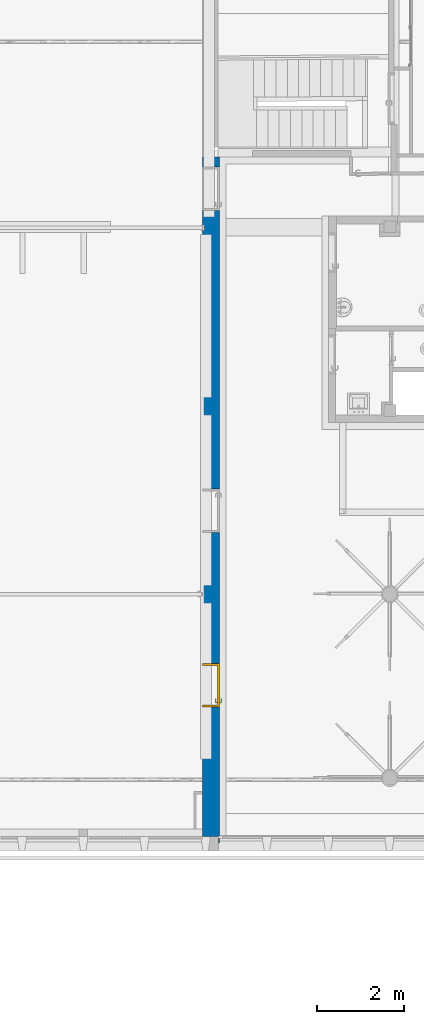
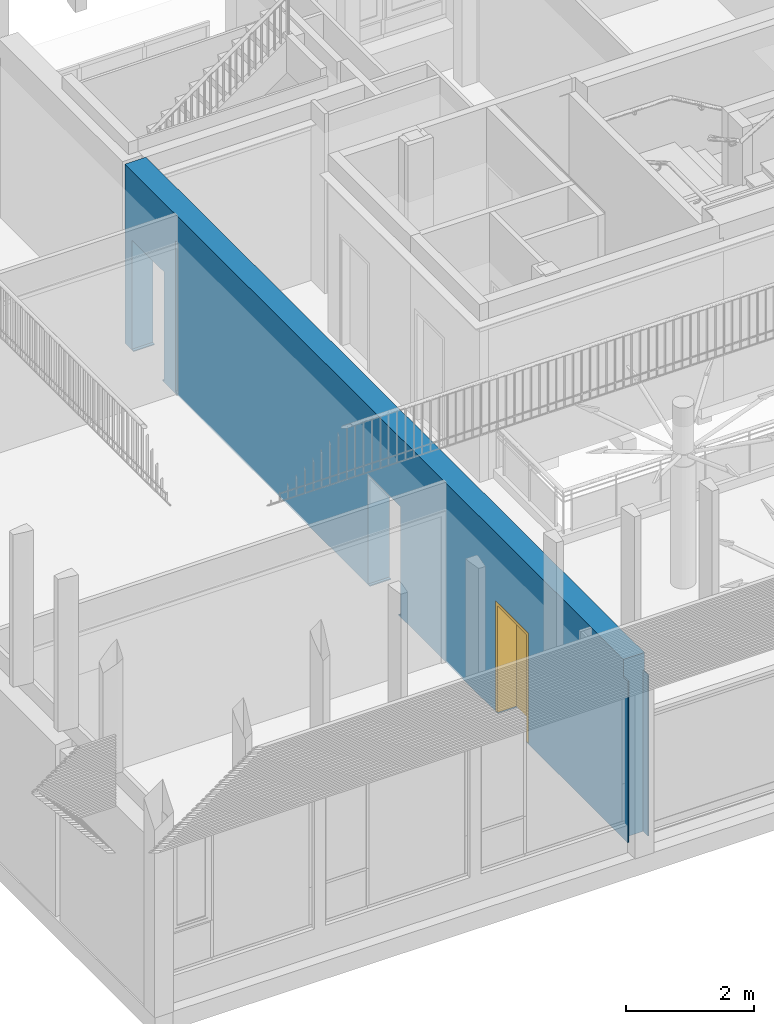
# One storey, part 28 of 65: 1 door, 1 wall, 3 openings.
"""IFC4 building model written with IfcOpenShell, lengths in metres."""

import ifcopenshell
import ifcopenshell.guid

model = None  # the IFC model being written
_history = None  # IfcOwnerHistory: only IFC2X3 demands one
_inside = {}  # id of a spatial element -> (the spatial element, [elements in it])
_under = {}  # id of a project, library or spatial element -> (it, [spatial elements below it])
_declared = {}  # id of a project -> (the project, [libraries it declares])
_typed = {}  # id of a type object -> (the type object, [elements of that type])
_made_of = {}  # id of a material, layer set ... -> (it, [elements and type objects made of it])


def new_model(schema):
    """Start an empty IFC model of exactly this schema.

    Asked for "IFC4X3", IfcOpenShell would pick the latest addendum, in which some entities
    have other attributes; the version numbers below select the first issue.
    IFC2X3 requires an IfcOwnerHistory on every rooted entity: one is made here for all.
    """
    global model, _history
    if schema == "IFC4X3":
        model = ifcopenshell.file(schema_version=(4, 3, 0, 0))
    else:
        model = ifcopenshell.file(schema=schema)
    _inside.clear()
    _under.clear()
    _declared.clear()
    _typed.clear()
    _made_of.clear()
    _history = None
    if model.schema == "IFC2X3":
        org = make("IfcOrganization", Name="unknown")
        user = make(
            "IfcPersonAndOrganization",
            ThePerson=make("IfcPerson", FamilyName="unknown"),
            TheOrganization=org,
        )
        app = make(
            "IfcApplication",
            ApplicationDeveloper=org,
            Version="unknown",
            ApplicationFullName="unknown",
            ApplicationIdentifier="unknown",
        )
        _history = make(
            "IfcOwnerHistory",
            OwningUser=user,
            OwningApplication=app,
            ChangeAction="ADDED",
            CreationDate=0,
        )
    return model


def make(cls, **values):
    """One entity of the class cls with the attributes given. An attribute that is None is left unset."""
    return model.create_entity(
        cls, **{name: value for name, value in values.items() if value is not None}
    )


def entity(cls, *values):
    """Any entity or typed value of the class cls, its attributes in the order of the schema. None: left unset."""
    e = model.create_entity(cls)
    for i, value in enumerate(values):
        if value is not None:
            e[i] = value
    return e


def rooted(cls, **values):
    """An entity with a GlobalId (a new one), such as an element, a storey or a relation."""
    return make(cls, GlobalId=ifcopenshell.guid.new(), OwnerHistory=_history, **values)


def si_unit(unit_type, name, prefix=None):
    """IfcSIUnit, for example si_unit("LENGTHUNIT", "METRE", prefix="MILLI")."""
    return make("IfcSIUnit", UnitType=unit_type, Prefix=prefix, Name=name)


def converted_unit(unit_type, name, factor, base, dimensions=None, offset=None):
    """IfcConversionBasedUnit, such as the inch: factor (a typed value) times the base unit."""
    return make(
        "IfcConversionBasedUnit"
        if offset is None
        else "IfcConversionBasedUnitWithOffset",
        ConversionOffset=offset,
        Dimensions=None
        if dimensions is None
        else entity("IfcDimensionalExponents", *dimensions),
        UnitType=unit_type,
        Name=name,
        ConversionFactor=make(
            "IfcMeasureWithUnit", ValueComponent=factor, UnitComponent=base
        ),
    )


def derived_unit(unit_type, elements):
    """IfcDerivedUnit: a product of units, each with its exponent."""
    return make(
        "IfcDerivedUnit",
        Elements=[
            make("IfcDerivedUnitElement", Unit=unit, Exponent=power)
            for unit, power in elements
        ],
        UnitType=unit_type,
    )


def assignment(units):
    """IfcUnitAssignment: the units of a project."""
    return None if units is None else make("IfcUnitAssignment", Units=units)


def point(xyz):
    """IfcCartesianPoint."""
    return None if xyz is None else make("IfcCartesianPoint", Coordinates=xyz)


def direction(xyz):
    """IfcDirection."""
    return None if xyz is None else make("IfcDirection", DirectionRatios=xyz)


def frame(location, z_axis=None, x_axis=None):
    """IfcAxis2Placement3D, a coordinate frame: its origin and axes. An axis left out is left unset."""
    return make(
        "IfcAxis2Placement3D",
        Location=point(location),
        Axis=direction(z_axis),
        RefDirection=direction(x_axis),
    )


def origin():
    """The frame at (0, 0, 0) with its axes left unset."""
    return frame((0.0, 0.0, 0.0))


def place(relative_to, where):
    """IfcLocalPlacement: puts the frame where relative to a parent placement (None: the world)."""
    return make(
        "IfcLocalPlacement", PlacementRelTo=relative_to, RelativePlacement=where
    )


def context(
    kind, dimensions, precision=None, world=None, true_north=None, identifier=None
):
    """IfcGeometricRepresentationContext, for example the 3D "Model" context."""
    return make(
        "IfcGeometricRepresentationContext",
        ContextIdentifier=identifier,
        ContextType=kind,
        CoordinateSpaceDimension=dimensions,
        Precision=precision,
        WorldCoordinateSystem=world,
        TrueNorth=true_north,
    )


def subcontext(parent, identifier, kind, view, scale=None):
    """IfcGeometricRepresentationSubContext, for example "Body" below "Model"."""
    return make(
        "IfcGeometricRepresentationSubContext",
        ContextIdentifier=identifier,
        ContextType=kind,
        ParentContext=parent,
        TargetScale=scale,
        TargetView=view,
    )


def project(units=None, contexts=None):
    """IfcProject with its units and contexts."""
    return rooted(
        "IfcProject",
        Name="project",
        RepresentationContexts=contexts,
        UnitsInContext=assignment(units),
    )


def spatial(cls, under=None, at=None, **own):
    """A site, building, storey or space (cls), placed at a placement, below another one or the project."""
    s = rooted(cls, ObjectPlacement=at, **own)
    if under is not None:
        _under.setdefault(under.id(), (under, []))[1].append(s)
    return s


def point_list(points):
    """IfcCartesianPointList2D or 3D."""
    cls = (
        "IfcCartesianPointList2D" if len(points[0]) == 2 else "IfcCartesianPointList3D"
    )
    return make(cls, CoordList=points)


def indexed_curve(points, segments=None, self_intersect=None):
    """IfcIndexedPolyCurve: lines and arcs through numbered points (the first is 1)."""
    return make(
        "IfcIndexedPolyCurve",
        Points=point_list(points),
        Segments=segments,
        SelfIntersect=self_intersect,
    )


def outline(outer, holes=None, kind="AREA"):
    """IfcArbitraryClosedProfileDef: a profile drawn as a closed curve; with holes, ...WithVoids."""
    if holes is None:
        return make("IfcArbitraryClosedProfileDef", ProfileType=kind, OuterCurve=outer)
    return make(
        "IfcArbitraryProfileDefWithVoids",
        ProfileType=kind,
        OuterCurve=outer,
        InnerCurves=holes,
    )


def extrude(swept, where, along, depth):
    """IfcExtrudedAreaSolid: the profile swept, set in the frame where, extruded along a direction by depth."""
    return make(
        "IfcExtrudedAreaSolid",
        SweptArea=swept,
        Position=where,
        ExtrudedDirection=direction(along),
        Depth=depth,
    )


def polygons(points, faces, closed=None, point_numbers=None):
    """IfcPolygonalFaceSet: a face is its outer loop, then its inner loops; points numbered from 1."""
    made = []
    for loops in faces:
        if len(loops) == 1:
            made.append(make("IfcIndexedPolygonalFace", CoordIndex=loops[0]))
        else:
            made.append(
                make(
                    "IfcIndexedPolygonalFaceWithVoids",
                    CoordIndex=loops[0],
                    InnerCoordIndices=loops[1:],
                )
            )
    return make(
        "IfcPolygonalFaceSet",
        Coordinates=point_list(points),
        Closed=closed,
        Faces=made,
        PnIndex=point_numbers,
    )


def shape(context_of_items, identifier, shape_type, items):
    """IfcShapeRepresentation: the items that make up one representation, for example the "Body"."""
    return make(
        "IfcShapeRepresentation",
        ContextOfItems=context_of_items,
        RepresentationIdentifier=identifier,
        RepresentationType=shape_type,
        Items=items,
    )


def source(mapping_origin, context_of_items, identifier, shape_type, items):
    """IfcRepresentationMap: a shape defined once, which mapped items show again and again."""
    return make(
        "IfcRepresentationMap",
        MappingOrigin=mapping_origin,
        MappedRepresentation=shape(context_of_items, identifier, shape_type, items),
    )


def transform(
    local_origin,
    x_axis=None,
    y_axis=None,
    z_axis=None,
    scale=None,
    scale2=None,
    scale3=None,
    uniform=True,
):
    """IfcCartesianTransformationOperator3D, or its non-uniform kind. x_axis, y_axis, z_axis: its Axis1, 2, 3."""
    if uniform:
        return make(
            "IfcCartesianTransformationOperator3D",
            Axis1=direction(x_axis),
            Axis2=direction(y_axis),
            LocalOrigin=point(local_origin),
            Scale=scale,
            Axis3=direction(z_axis),
        )
    return make(
        "IfcCartesianTransformationOperator3DnonUniform",
        Axis1=direction(x_axis),
        Axis2=direction(y_axis),
        LocalOrigin=point(local_origin),
        Scale=scale,
        Axis3=direction(z_axis),
        Scale2=scale2,
        Scale3=scale3,
    )


def mapped(mapping_source, mapping_target):
    """IfcMappedItem: shows the shape of a source again, moved by a transform."""
    return make(
        "IfcMappedItem", MappingSource=mapping_source, MappingTarget=mapping_target
    )


def material(Name=None, Category=None):
    """IfcMaterial."""
    return make("IfcMaterial", Name=Name, Category=Category)


def material_list(materials):
    """IfcMaterialList."""
    return make("IfcMaterialList", Materials=materials)


def layer(
    of_material, thickness, ventilated=None, Name=None, Category=None, Priority=None
):
    """IfcMaterialLayer: one layer of a wall or slab, of a material (None: an air gap)."""
    return make(
        "IfcMaterialLayer",
        Material=of_material,
        LayerThickness=thickness,
        IsVentilated=ventilated,
        Name=Name,
        Category=Category,
        Priority=Priority,
    )


def layer_set(layers, Name=None):
    """IfcMaterialLayerSet."""
    return make("IfcMaterialLayerSet", MaterialLayers=layers, LayerSetName=Name)


def constituent(of_material, Name=None, Category=None, fraction=None):
    """IfcMaterialConstituent: one of the materials an element consists of."""
    return make(
        "IfcMaterialConstituent",
        Name=Name,
        Material=of_material,
        Fraction=fraction,
        Category=Category,
    )


def constituent_set(constituents=None, Name=None):
    """IfcMaterialConstituentSet."""
    return make(
        "IfcMaterialConstituentSet", Name=Name, MaterialConstituents=constituents
    )


def made_of(thing, what):
    """Note that an element or type object is made of a material, layer set ...; save() writes the relation."""
    if what is not None:
        _made_of.setdefault(what.id(), (what, []))[1].append(thing)
    return thing


def type_object(cls, material=None, **own):
    """A type object (cls), such as IfcWallType, which elements share."""
    return made_of(rooted(cls, **own), material)


def type_shapes(of_type, sources):
    """Give a type object the sources (RepresentationMaps) that its elements show as mapped items."""
    of_type.RepresentationMaps = sources


def element(
    cls,
    number,
    at=None,
    inside=None,
    cuts=None,
    type_object=None,
    material=None,
    context=None,
    identifier="Body",
    shape_type=None,
    held_by="IfcProductDefinitionShape",
    body=None,
    shapes=None,
    **own,
):
    """One element of the class cls, such as IfcWall. Its Tag is "e" and its number.

    at: its placement. inside: the storey or other place that contains it. cuts: it is an
    opening in that element (IfcRelVoidsElement). A single representation is given by context,
    identifier, shape_type and body (its items); several are given by shapes. held_by: the class
    of the entity that holds the representations. save() writes the other relations.
    """
    e = rooted(cls, Tag="e%d" % number, ObjectPlacement=at, **own)
    if body is not None:
        shapes = [shape(context, identifier, shape_type, body)]
    if shapes is not None:
        e.Representation = make(held_by, Representations=shapes)
    if inside is not None:
        _inside.setdefault(inside.id(), (inside, []))[1].append(e)
    if cuts is not None:
        rooted(
            "IfcRelVoidsElement", RelatingBuildingElement=cuts, RelatedOpeningElement=e
        )
    if type_object is not None:
        _typed.setdefault(type_object.id(), (type_object, []))[1].append(e)
    return made_of(e, material)


def fill(opening, filler):
    """IfcRelFillsElement: the door or window that sits in an opening."""
    return rooted(
        "IfcRelFillsElement",
        RelatingOpeningElement=opening,
        RelatedBuildingElement=filler,
    )


def aggregate(whole, parts):
    """IfcRelAggregates: a whole, such as a stair, and the parts it consists of."""
    return rooted("IfcRelAggregates", RelatingObject=whole, RelatedObjects=parts)


def save(model, path):
    """Write the relations noted so far, then the file.

    IfcRelAggregates (storeys below a building ...), IfcRelContainedInSpatialStructure (elements
    in a storey), IfcRelDefinesByType, IfcRelAssociatesMaterial and IfcRelDeclares: one each for
    every whole, place, type object, material and project.
    """
    for whole, parts in _under.values():
        aggregate(whole, parts)
    for where, things in _inside.values():
        rooted(
            "IfcRelContainedInSpatialStructure",
            RelatedElements=things,
            RelatingStructure=where,
        )
    for kind, things in _typed.values():
        rooted("IfcRelDefinesByType", RelatedObjects=things, RelatingType=kind)
    for what, things in _made_of.values():
        rooted("IfcRelAssociatesMaterial", RelatedObjects=things, RelatingMaterial=what)
    for by, libraries in _declared.values():
        rooted("IfcRelDeclares", RelatingContext=by, RelatedDefinitions=libraries)
    model.write(path)


model = new_model("IFC4")

# Units and contexts
model_context = context("Model", 3, precision=1e-05, world=origin(), true_north=direction((6.12303176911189e-17, 1.0)))
body_context = subcontext(model_context, "Body", "Model", "MODEL_VIEW")
ifc_project = project(units=[si_unit("LENGTHUNIT", "METRE"), si_unit("AREAUNIT", "SQUARE_METRE"), si_unit("VOLUMEUNIT", "CUBIC_METRE"), converted_unit("PLANEANGLEUNIT", "DEGREE", entity("IfcRatioMeasure", 0.0174532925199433), si_unit("PLANEANGLEUNIT", "RADIAN"), dimensions=[0, 0, 0, 0, 0, 0, 0]), si_unit("MASSUNIT", "GRAM", prefix="KILO"), derived_unit("MASSDENSITYUNIT", [(si_unit("MASSUNIT", "GRAM", prefix="KILO"), 1), (si_unit("LENGTHUNIT", "METRE"), -3)]), derived_unit("MOMENTOFINERTIAUNIT", [(si_unit("LENGTHUNIT", "METRE"), 4)]), si_unit("TIMEUNIT", "SECOND"), si_unit("FREQUENCYUNIT", "HERTZ"), si_unit("THERMODYNAMICTEMPERATUREUNIT", "DEGREE_CELSIUS"), derived_unit("THERMALTRANSMITTANCEUNIT", [(si_unit("MASSUNIT", "GRAM", prefix="KILO"), 1), (si_unit("THERMODYNAMICTEMPERATUREUNIT", "KELVIN"), -1), (si_unit("TIMEUNIT", "SECOND"), -3)]), derived_unit("VOLUMETRICFLOWRATEUNIT", [(si_unit("LENGTHUNIT", "METRE"), 3), (si_unit("TIMEUNIT", "SECOND"), -1)]), si_unit("ELECTRICCURRENTUNIT", "AMPERE"), si_unit("ELECTRICVOLTAGEUNIT", "VOLT"), si_unit("POWERUNIT", "WATT"), si_unit("FORCEUNIT", "NEWTON", prefix="KILO"), si_unit("ILLUMINANCEUNIT", "LUX"), si_unit("LUMINOUSFLUXUNIT", "LUMEN"), si_unit("LUMINOUSINTENSITYUNIT", "CANDELA"), derived_unit("USERDEFINED", [(si_unit("MASSUNIT", "GRAM", prefix="KILO"), -1), (si_unit("LENGTHUNIT", "METRE"), -2), (si_unit("TIMEUNIT", "SECOND"), 3), (si_unit("LUMINOUSFLUXUNIT", "LUMEN"), 1)]), derived_unit("LINEARVELOCITYUNIT", [(si_unit("LENGTHUNIT", "METRE"), 1), (si_unit("TIMEUNIT", "SECOND"), -1)]), si_unit("PRESSUREUNIT", "PASCAL"), derived_unit("USERDEFINED", [(si_unit("LENGTHUNIT", "METRE"), -2), (si_unit("MASSUNIT", "GRAM", prefix="KILO"), 1), (si_unit("TIMEUNIT", "SECOND"), -2)]), derived_unit("LINEARFORCEUNIT", [(si_unit("MASSUNIT", "GRAM", prefix="KILO"), 1), (si_unit("LENGTHUNIT", "METRE"), 1), (si_unit("TIMEUNIT", "SECOND"), -2), (si_unit("LENGTHUNIT", "METRE"), -1)]), derived_unit("PLANARFORCEUNIT", [(si_unit("MASSUNIT", "GRAM", prefix="KILO"), 1), (si_unit("LENGTHUNIT", "METRE"), 1), (si_unit("TIMEUNIT", "SECOND"), -2), (si_unit("LENGTHUNIT", "METRE"), -2)])], contexts=[model_context])

# Site, building, storey
site_placement = place(None, origin())
site = spatial("IfcSite", under=ifc_project, at=site_placement, Name="Default", CompositionType="ELEMENT")
building_placement = place(site_placement, origin())
building = spatial("IfcBuilding", under=site, at=building_placement, Name="HOTEL CONSULAIRE BOULOGNE SUR MER", CompositionType="ELEMENT")
storey_placement = place(building_placement, origin())
storey = spatial("IfcBuildingStorey", under=building, at=storey_placement, Name="Niveau 0", CompositionType="ELEMENT", Elevation=1.31981936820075e-13)

# Wall, openings, door
ifc_material_1 = material(Name="Mur par défaut", Category="Divers")
ifc_layer = layer(ifc_material_1, 0.38, Name="Mur par défaut", Category="Divers")
ifc_layer_set = layer_set([ifc_layer], Name="Mur de base:Générique - Int.380")
wall_type = type_object("IfcWallType", Name="Mur de base:Générique - Int.380", PredefinedType="NOTDEFINED", material=ifc_layer_set)
wall_placement = place(storey_placement, frame((-5.31977317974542, -29.7040671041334, -0.0200000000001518), z_axis=(0.0, 0.0, 1.0), x_axis=(0.0, 1.0, 0.0)))
wall = element("IfcWall", 1, at=wall_placement, inside=storey, type_object=wall_type, material=ifc_layer_set, Name="Mur de base:Générique - Int.380", ObjectType="Mur de base:Générique - Int.380", PredefinedType="NOTDEFINED", context=body_context, shape_type="Tessellation", body=[
    polygons([(0.139999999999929, 0.169207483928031, 3.07112697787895), (0.139999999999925, 0.190000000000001, 3.07112697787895), (0.0, 0.19, 3.07112697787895), (0.0, 0.169207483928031, 3.07112697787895), (7.14209025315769, -0.189999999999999, 1.48048240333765e-16), (4.05599999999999, -0.19, 8.45989944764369e-17), (4.05599999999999, 0.19, 8.45989944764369e-17), (5.6490162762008, 0.190000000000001, 1.18438592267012e-16), (5.72901627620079, 0.190000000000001, 1.18438592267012e-16), (7.14209025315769, 0.190000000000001, 1.48048240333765e-16), (7.09209025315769, 0.19, 0.0200000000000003), (7.09209025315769, -0.190000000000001, 0.0200000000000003), (7.14209025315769, -0.19, 0.0200000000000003), (7.14209025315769, 0.19, 0.0200000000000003), (15.6803636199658, 0.19, 3.25706128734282e-16), (15.6803636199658, -0.19, 3.25706128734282e-16), (15.4057773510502, -0.19, 3.2147617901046e-16), (15.4057773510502, 0.19, 3.2147617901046e-16), (15.4557773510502, -0.19, 0.0200000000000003), (15.4557773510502, 0.19, 0.0200000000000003), (15.4057773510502, 0.19, 0.0200000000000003), (15.4057773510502, -0.19, 0.0200000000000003), (14.5057773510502, -0.19, 3.00326430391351e-16), (8.04209025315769, -0.19, 1.64968039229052e-16), (8.04209025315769, 0.19, 1.64968039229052e-16), (14.0267749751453, 0.190000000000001, 2.91866530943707e-16), (14.1067749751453, 0.19, 2.91866530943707e-16), (14.5057773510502, 0.190000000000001, 3.00326430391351e-16), (4.10599999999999, -0.19, 0.0200000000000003), (4.106, 0.19, 0.0200000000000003), (4.05599999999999, 0.19, 0.0200000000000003), (4.05599999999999, -0.19, 0.0200000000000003), (0.0, 0.19, 0.0), (0.0, 0.169207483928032, 0.0), (4.106, -0.19, 2.095), (7.09209025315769, -0.190000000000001, 2.095), (8.09209025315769, -0.19, 2.095), (8.09209025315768, -0.19, 0.0200000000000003), (8.04209025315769, -0.19, 0.0200000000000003), (14.5057773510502, -0.190000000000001, 0.0200000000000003), (14.4557773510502, -0.190000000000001, 0.0200000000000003), (14.4557773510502, -0.190000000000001, 2.095), (15.4557773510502, -0.19, 2.095), (15.6803636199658, -0.19, 3.40652697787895), (0.139999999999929, -0.19, 3.40652697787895), (0.139999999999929, -0.19, 3.07112697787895), (0.0, -0.19, 3.07112697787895), (0.0, -0.19, 0.0), (0.0460000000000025, -0.19, 0.0), (0.166000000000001, -0.19, 4.22994972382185e-18), (3.15599999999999, -0.19, 6.34492458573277e-17), (3.15599999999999, -0.19, 0.0200000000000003), (3.106, -0.19, 0.0200000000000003), (3.106, -0.19, 2.095), (4.10599999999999, 0.19, 2.095), (3.106, 0.19, 2.095), (3.106, 0.19, 0.0350000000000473), (3.106, 0.19, 0.0200000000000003), (3.15599999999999, 0.19, 0.0200000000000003), (3.15599999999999, 0.19, 6.34492458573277e-17), (1.16997686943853, 0.19, 2.53796983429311e-17), (1.11997686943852, 0.19, 2.11497486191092e-17), (0.316000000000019, 0.19, 8.45989944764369e-18), (0.26700821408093, 0.19, 4.22994972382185e-18), (0.150000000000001, 0.190000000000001, 4.22994972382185e-18), (0.0459999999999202, 0.19, 0.0), (0.139999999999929, 0.190000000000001, 3.40652697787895), (15.6803636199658, 0.19, 3.40652697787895), (15.6803636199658, 0.19, 0.0350000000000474), (15.4557773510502, 0.19, 0.0350000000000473), (15.4557773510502, 0.19, 2.095), (14.4557773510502, 0.19, 2.095), (14.4557773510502, 0.19, 0.0350000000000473), (14.4557773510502, 0.19, 0.0200000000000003), (14.5057773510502, 0.19, 0.0200000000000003), (8.04209025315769, 0.19, 0.0200000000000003), (8.09209025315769, 0.19, 0.0200000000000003), (8.09209025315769, 0.19, 0.0350000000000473), (8.09209025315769, 0.19, 2.095), (7.09209025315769, 0.19, 2.095), (7.09209025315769, 0.19, 0.0350000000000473), (4.106, 0.19, 0.0350000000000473), (14.1067749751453, 0.19, 0.0350000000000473), (14.1067749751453, 0.19, 2.91000000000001), (14.0267749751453, 0.19, 2.91000000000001), (14.0267749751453, 0.19, 0.0350000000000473), (0.150000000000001, -0.170792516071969, 3.07152697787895), (0.150000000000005, -0.170792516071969, 0.0), (0.0, -0.170792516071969, 0.0), (0.0, -0.170792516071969, 3.07112697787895), (0.139999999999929, -0.170792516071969, 3.07112697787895), (0.139999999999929, -0.170792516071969, 3.07152697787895), (0.150000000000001, 0.169207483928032, 0.0), (0.150000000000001, 0.169207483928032, 3.07152697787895), (0.139999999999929, 0.169207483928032, 3.07152697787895), (14.1067749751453, 0.149326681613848, 0.0350000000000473), (14.1067749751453, 0.149326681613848, 2.91000000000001), (14.0267749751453, 0.149326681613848, 2.91000000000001), (14.0267749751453, 0.149326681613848, 0.0350000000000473)], [[[3, 4, 1, 2]], [[12, 13, 14, 11]], [[21, 22, 19, 20]], [[30, 31, 32, 29]], [[59, 58, 53, 52]], [[38, 77, 76, 39]], [[75, 74, 41, 40]], [[86, 99, 96, 83]], [[45, 44, 68, 67]], [[90, 47, 46, 91]], [[5, 6, 7, 8, 9, 10]], [[16, 17, 18, 15]], [[23, 24, 25, 26, 27, 28]], [[55, 35, 54, 56]], [[36, 80, 79, 37]], [[71, 43, 42, 72]], [[85, 84, 97, 98]], [[49, 48, 89, 88, 93, 34, 33, 66, 65, 64, 63, 62, 61, 60, 51, 50]], [[94, 87, 92, 95]], [[34, 4, 3, 33]], [[82, 30, 29, 35, 55]], [[38, 37, 79, 78, 77]], [[70, 20, 19, 43, 71]], [[88, 87, 94, 93]], [[84, 83, 96, 97]], [[48, 47, 90, 89]], [[91, 46, 45, 67, 2, 1, 95, 92]], [[21, 18, 17, 22]], [[76, 25, 24, 39]], [[31, 7, 6, 32]], [[47, 48, 49, 50, 51, 52, 53, 54, 35, 29, 32, 6, 5, 13, 12, 36, 37, 38, 39, 24, 23, 40, 41, 42, 43, 19, 22, 17, 16, 44, 45, 46]], [[94, 95, 1, 4, 34, 93]], [[20, 70, 71, 72, 73, 74, 75, 28, 27, 26, 25, 76, 77, 78, 79, 80, 81, 11, 14, 10, 9, 8, 7, 31, 30, 82, 55, 56, 57, 58, 59, 60, 61, 62, 63, 64, 65, 66, 33, 3, 2, 67, 68, 69, 15, 18, 21], [84, 85, 86, 83]], [[92, 87, 88, 89, 90, 91]], [[98, 97, 96, 99]], [[57, 56, 54, 53, 58]], [[36, 12, 11, 81, 80]], [[73, 72, 42, 41, 74]], [[98, 99, 86, 85]], [[44, 16, 15, 69, 68]], [[75, 40, 23, 28]], [[14, 13, 5, 10]], [[52, 51, 60, 59]]], closed=True),
])
opening_1_placement = place(wall_placement, frame((4.10599999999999, 0.189999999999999, 0.0200000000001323)))
opening_1 = element("IfcOpeningElement", 2, at=opening_1_placement, cuts=wall, Name="Int. Simple:PP0.93x2.04:1", ObjectType="Opening", PredefinedType="OPENING", context=body_context, shape_type="SweptSolid", body=[
    extrude(outline(indexed_curve([(0.0, -9.19159011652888e-31), (2.075, -9.19159011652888e-31), (2.075, 1.0), (0.0, 1.0), (0.0, -9.19159011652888e-31)], self_intersect=False)), frame((0.0, 0.0, 0.0), z_axis=(0.0, -1.0, 0.0), x_axis=(0.0, 0.0, 1.0)), (0.0, 0.0, 1.0), 0.38),
])
opening_2_placement = place(wall_placement, frame((8.09209025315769, 0.19, 0.0200000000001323)))
element("IfcOpeningElement", 3, at=opening_2_placement, cuts=wall, Name="Int. Simple:PP0.93x2.04:1", ObjectType="Opening", PredefinedType="OPENING", context=body_context, shape_type="SweptSolid", body=[
    extrude(outline(indexed_curve([(0.0, 1.0), (0.0, -9.19159011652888e-31), (2.075, -9.19159011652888e-31), (2.075, 1.0), (0.0, 1.0)], self_intersect=False)), frame((0.0, 0.0, 0.0), z_axis=(0.0, -1.0, 0.0), x_axis=(0.0, 0.0, 1.0)), (0.0, 0.0, 1.0), 0.38),
])
opening_3_placement = place(wall_placement, frame((15.4557773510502, 0.189999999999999, 0.0200000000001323)))
element("IfcOpeningElement", 4, at=opening_3_placement, cuts=wall, Name="Int. Simple:PP0.93x2.04:1", ObjectType="Opening", PredefinedType="OPENING", context=body_context, shape_type="SweptSolid", body=[
    extrude(outline(indexed_curve([(0.0, 2.16573425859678e-15), (2.075, 2.16573425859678e-15), (2.075, 1.0), (0.0, 1.0), (0.0, 2.16573425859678e-15)], self_intersect=False)), frame((0.0, 0.0, 0.0), z_axis=(0.0, -1.0, 0.0), x_axis=(0.0, 0.0, 1.0)), (0.0, 0.0, 1.0), 0.38),
])
ifc_material_2 = material(Name="Finition Peinture - Blanc satiné", Category="Peinture")
ifc_constituent_1 = constituent(ifc_material_2, Name="Finition Peinture - Blanc satiné", Category="Matériaux")
ifc_material_3 = material(Name="Bois - Panneau de porte", Category="Bois")
ifc_constituent_2 = constituent(ifc_material_3, Name="Bois - Panneau de porte", Category="Matériaux")
ifc_material_4 = material(Name="Bois - Cadre de porte", Category="Bois")
ifc_constituent_3 = constituent(ifc_material_4, Name="Bois - Cadre de porte", Category="Matériaux")
ifc_constituent_set = constituent_set(constituents=[ifc_constituent_1, ifc_constituent_2, ifc_constituent_3], Name="MaterialConstituentSet")
ifc_material_list = material_list([ifc_material_3, ifc_material_4, ifc_material_2, ifc_material_4])
door_type = type_object("IfcDoorType", Name="Int. Simple:PP0.93x2.04", OperationType="NOTDEFINED", PredefinedType="DOOR", material=ifc_material_list)
shared_shape = source(origin(), body_context, "Body", "Tessellation", [
    polygons([(0.075000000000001, -0.0050000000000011, 0.870000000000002), (0.0846472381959, -0.0050000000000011, 0.866003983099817), (0.0950000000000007, -0.0050000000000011, 0.86464101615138), (0.105352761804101, -0.00500000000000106, 0.866003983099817), (0.115, -0.00500000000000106, 0.870000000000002), (0.114999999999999, -0.00500000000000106, 1.08), (0.1053527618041, -0.00500000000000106, 1.08399601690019), (0.0949999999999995, -0.0050000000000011, 1.08535898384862), (0.0846472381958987, -0.0050000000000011, 1.08399601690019), (0.0749999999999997, -0.0050000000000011, 1.08), (0.0749999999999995, -1.11670672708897e-15, 0.870000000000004), (0.0749999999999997, -1.11670672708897e-15, 1.08), (0.0846472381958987, -1.11670672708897e-15, 1.08399601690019), (0.0949999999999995, -1.11670672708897e-15, 1.08535898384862), (0.1053527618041, -1.08286712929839e-15, 1.08399601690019), (0.114999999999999, -1.08286712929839e-15, 1.08), (0.115, -1.08286712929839e-15, 0.870000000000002), (0.105352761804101, -1.08286712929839e-15, 0.866003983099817), (0.0950000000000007, -1.11670672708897e-15, 0.86464101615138), (0.0846472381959, -1.11670672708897e-15, 0.866003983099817)], [[[4, 5, 6, 7, 8, 9, 10, 1, 2, 3]], [[15, 16, 17, 18, 19, 20, 11, 12, 13, 14]], [[11, 20, 2, 1]], [[2, 20, 19, 3]], [[19, 18, 4, 3]], [[18, 17, 5, 4]], [[6, 5, 17, 16]], [[16, 15, 7, 6]], [[7, 15, 14, 8]], [[14, 13, 9, 8]], [[13, 12, 10, 9]], [[1, 10, 12, 11]]], closed=True),
    polygons([(0.114999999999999, 0.0399999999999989, 1.08), (0.1053527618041, 0.0399999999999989, 1.08399601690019), (0.0949999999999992, 0.0399999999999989, 1.08535898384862), (0.0846472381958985, 0.0399999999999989, 1.08399601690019), (0.0749999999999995, 0.0399999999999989, 1.08), (0.075000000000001, 0.0399999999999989, 0.870000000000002), (0.0846472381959, 0.0399999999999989, 0.866003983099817), (0.0950000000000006, 0.0399999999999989, 0.86464101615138), (0.105352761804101, 0.0399999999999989, 0.866003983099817), (0.115, 0.0399999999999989, 0.870000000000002), (0.114999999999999, 0.0449999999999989, 1.08), (0.115, 0.0449999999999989, 0.870000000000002), (0.105352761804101, 0.0449999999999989, 0.866003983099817), (0.0950000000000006, 0.0449999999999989, 0.86464101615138), (0.0846472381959, 0.0449999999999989, 0.866003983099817), (0.0749999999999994, 0.0449999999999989, 0.870000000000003), (0.0749999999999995, 0.0449999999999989, 1.08), (0.0846472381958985, 0.0449999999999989, 1.08399601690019), (0.0949999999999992, 0.0449999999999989, 1.08535898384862), (0.1053527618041, 0.0449999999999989, 1.08399601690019)], [[[9, 10, 1, 2, 3, 4, 5, 6, 7, 8]], [[20, 11, 12, 13, 14, 15, 16, 17, 18, 19]], [[11, 20, 2, 1]], [[2, 20, 19, 3]], [[19, 18, 4, 3]], [[18, 17, 5, 4]], [[6, 5, 17, 16]], [[16, 15, 7, 6]], [[7, 15, 14, 8]], [[14, 13, 9, 8]], [[13, 12, 10, 9]], [[1, 10, 12, 11]]], closed=True),
    polygons([(0.0889999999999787, -0.00500000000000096, 1.007), (0.0929747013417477, -0.00500000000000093, 1.00778044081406), (0.097025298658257, -0.00500000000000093, 1.00778044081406), (0.101000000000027, -0.00500000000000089, 1.00699999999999), (0.101000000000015, -0.00500000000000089, 0.993000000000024), (0.0970252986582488, -0.00500000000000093, 0.992219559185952), (0.0929747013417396, -0.00500000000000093, 0.99221955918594), (0.0889999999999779, -0.00500000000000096, 0.992999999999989), (0.0889999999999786, -0.0326509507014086, 1.007), (0.0929747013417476, -0.0310045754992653, 1.00778044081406), (0.0970252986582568, -0.029326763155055, 1.00778044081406), (0.101000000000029, -0.0276803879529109, 1.007), (0.101000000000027, -0.0276803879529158, 0.993000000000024), (0.0970252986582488, -0.0293267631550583, 0.992219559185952), (0.0929747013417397, -0.0310045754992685, 0.99221955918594), (0.0889999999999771, -0.0326509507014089, 0.992999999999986), (0.107377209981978, -0.0510281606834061, 1.007), (0.109023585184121, -0.0470534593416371, 1.00778044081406), (0.110701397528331, -0.0430028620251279, 1.00778044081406), (0.112347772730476, -0.0390281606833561, 1.007), (0.112347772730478, -0.0390281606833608, 0.993000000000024), (0.110701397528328, -0.0430028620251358, 0.992219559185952), (0.109023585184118, -0.047053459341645, 0.99221955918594), (0.107377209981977, -0.0510281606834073, 0.992999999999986), (0.195018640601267, -0.0510281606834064, 1.00699999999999), (0.195018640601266, -0.0510281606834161, 0.992999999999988), (0.195018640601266, -0.0470534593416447, 0.99221955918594), (0.195018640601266, -0.0430028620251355, 0.992219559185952), (0.195018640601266, -0.039028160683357, 0.993000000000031), (0.195018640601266, -0.0390281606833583, 1.007), (0.195018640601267, -0.0430028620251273, 1.00778044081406), (0.195018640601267, -0.0470534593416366, 1.00778044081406), (0.147307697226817, -0.0510281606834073, 1.007), (0.152860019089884, -0.045028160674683, 1.0078786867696), (0.15368320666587, -0.039028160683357, 1.007), (0.147307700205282, -0.0510281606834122, 0.992999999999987), (0.152860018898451, -0.0450281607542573, 0.992121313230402), (0.153683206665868, -0.039028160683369, 0.993000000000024)], [[[2, 3, 4, 5, 6, 7, 8, 1]], [[21, 20, 35, 30, 29, 38]], [[9, 10, 2, 1]], [[10, 18, 19, 11, 3, 2]], [[11, 12, 4, 3]], [[5, 4, 12, 13]], [[26, 27, 28, 29, 30, 31, 32, 25]], [[13, 14, 6, 5]], [[14, 22, 23, 15, 7, 6]], [[15, 16, 8, 7]], [[1, 8, 16, 9]], [[17, 18, 10, 9]], [[19, 20, 12, 11]], [[13, 12, 20, 21]], [[21, 22, 14, 13]], [[23, 24, 16, 15]], [[9, 16, 24, 17]], [[33, 32, 34]], [[25, 32, 33]], [[18, 17, 33]], [[34, 35, 19]], [[20, 19, 35]], [[35, 31, 30]], [[32, 31, 34]], [[31, 35, 34]], [[18, 33, 34]], [[18, 34, 19]], [[38, 28, 37]], [[36, 37, 27]], [[21, 38, 22]], [[38, 29, 28]], [[26, 36, 27]], [[24, 23, 36]], [[36, 23, 37]], [[23, 22, 37]], [[22, 38, 37]], [[27, 37, 28]], [[17, 24, 36, 26, 25, 33]]], closed=True),
    polygons([(0.10100000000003, 0.0449999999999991, 0.993000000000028), (0.101000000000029, 0.0449999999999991, 1.007), (0.0970252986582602, 0.044999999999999, 1.00778044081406), (0.092974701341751, 0.044999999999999, 1.00778044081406), (0.0889999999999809, 0.044999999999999, 1.007), (0.0889999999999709, 0.044999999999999, 0.992999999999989), (0.0929747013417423, 0.044999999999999, 0.99221955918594), (0.0970252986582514, 0.044999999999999, 0.992219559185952), (0.10100000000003, 0.067485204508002, 0.993000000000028), (0.10100000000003, 0.0674852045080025, 1.007), (0.0970252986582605, 0.0691315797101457, 1.00778044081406), (0.0929747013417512, 0.0708093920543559, 1.00778044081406), (0.088999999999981, 0.0724557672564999, 1.007), (0.0889999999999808, 0.072455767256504, 0.992999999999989), (0.092974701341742, 0.0708093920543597, 0.99221955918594), (0.0970252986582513, 0.0691315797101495, 0.992219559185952), (0.112485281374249, 0.0789704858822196, 0.993000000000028), (0.112485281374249, 0.0789704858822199, 1.007), (0.110838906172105, 0.0829451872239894, 1.00778044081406), (0.109161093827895, 0.0869957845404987, 1.00778044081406), (0.107514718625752, 0.0909704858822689, 1.007), (0.107514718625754, 0.090970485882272, 0.992999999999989), (0.109161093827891, 0.0869957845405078, 0.99221955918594), (0.110838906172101, 0.0829451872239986, 0.992219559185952), (0.195045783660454, 0.0789704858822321, 0.993000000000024), (0.195045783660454, 0.0829451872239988, 0.992219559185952), (0.195045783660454, 0.086995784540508, 0.99221955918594), (0.195045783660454, 0.0909704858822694, 0.992999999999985), (0.195045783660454, 0.0909704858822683, 1.007), (0.195045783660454, 0.0869957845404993, 1.00778044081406), (0.195045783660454, 0.08294518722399, 1.00778044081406), (0.195045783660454, 0.0789704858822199, 1.007), (0.147445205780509, 0.0909704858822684, 1.007), (0.152942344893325, 0.0849704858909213, 1.0078786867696), (0.153765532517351, 0.0789704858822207, 1.007), (0.147445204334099, 0.0909704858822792, 0.992999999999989), (0.152942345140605, 0.0849704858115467, 0.992121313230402), (0.153765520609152, 0.0789704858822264, 0.993000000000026)], [[[4, 5, 6, 7, 8, 1, 2, 3]], [[18, 17, 38, 25, 32, 35]], [[2, 1, 9, 10]], [[25, 26, 27, 28, 29, 30, 31, 32]], [[10, 11, 3, 2]], [[11, 19, 20, 12, 4, 3]], [[12, 13, 5, 4]], [[6, 5, 13, 14]], [[14, 15, 7, 6]], [[15, 23, 24, 16, 8, 7]], [[16, 9, 1, 8]], [[10, 9, 17, 18]], [[18, 19, 11, 10]], [[20, 21, 13, 12]], [[14, 13, 21, 22]], [[22, 23, 15, 14]], [[24, 17, 9, 16]], [[35, 31, 34]], [[33, 34, 30]], [[18, 35, 19]], [[35, 32, 31]], [[29, 33, 30]], [[21, 20, 33]], [[33, 20, 34]], [[20, 19, 34]], [[19, 35, 34]], [[30, 34, 31]], [[21, 33, 29, 28, 36, 22]], [[36, 27, 37]], [[28, 27, 36]], [[23, 22, 36]], [[37, 38, 24]], [[17, 24, 38]], [[38, 26, 25]], [[27, 26, 37]], [[26, 38, 37]], [[23, 36, 37]], [[23, 37, 24]]], closed=True),
    polygons([(0.0349999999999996, 0.04, 2.04), (0.965, 0.04, 2.04), (0.965, 0.04, 0.0), (0.0349999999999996, 0.04, 0.0), (0.0349999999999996, 0.0, 2.04), (0.0349999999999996, 0.0, 0.0), (0.965, 0.0, 0.0), (0.965, 0.0, 2.04)], [[[4, 1, 2, 3]], [[7, 8, 5, 6]], [[2, 1, 5, 8]], [[3, 2, 8, 7]], [[4, 3, 7, 6]], [[1, 4, 6, 5]]], closed=True),
    polygons([(-1.53631773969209e-14, 0.0, 0.0), (-1.53631773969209e-14, 0.380000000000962, 0.0), (0.0499999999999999, 0.380000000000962, 0.0), (0.0499999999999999, 0.040000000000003, 0.0), (0.0349999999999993, 0.040000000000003, 0.0), (0.0349999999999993, 0.0, 0.0), (-1.51601398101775e-14, 0.0, 2.07500000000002), (-1.51601398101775e-14, 0.380000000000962, 2.07500000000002), (1.00000000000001, 0.380000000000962, 2.07500000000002), (1.00000000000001, 0.380000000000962, 3.88816484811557e-25), (0.95, 0.380000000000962, 3.59657255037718e-24), (0.95, 0.380000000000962, 2.025), (0.05, 0.380000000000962, 2.025), (0.05, 0.040000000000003, 2.025), (0.95, 0.040000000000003, 2.025), (0.95, 0.040000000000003, 2.24110802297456e-24), (0.965, 0.040000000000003, -4.78103047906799e-25), (0.965, 0.040000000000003, 2.04), (0.0349999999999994, 0.040000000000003, 2.04), (0.0349999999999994, 0.0, 2.04), (0.965, 0.0, 2.04), (0.965, 0.0, -2.84752548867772e-24), (1.00000000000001, 0.0, -3.95490158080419e-25), (1.00000000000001, 0.0, 2.07500000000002)], [[[5, 6, 1, 2, 3, 4]], [[11, 10, 23, 22, 17, 16]], [[14, 13, 12, 15]], [[20, 19, 18, 21]], [[2, 1, 7, 8]], [[15, 12, 11, 16]], [[21, 18, 17, 22]], [[3, 2, 8, 9, 10, 11, 12, 13]], [[4, 3, 13, 14]], [[6, 5, 19, 20]], [[9, 24, 23, 10]], [[16, 17, 18, 19, 5, 4, 14, 15]], [[22, 23, 24, 7, 1, 6, 20, 21]], [[8, 7, 24, 9]]], closed=True),
    polygons([(0.0149999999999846, 0.380000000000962, 0.0), (-0.0150000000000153, 0.380000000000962, 0.0), (-0.0150000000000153, 0.385000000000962, 0.0), (0.0149999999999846, 0.385000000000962, 0.0), (0.0149999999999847, 0.380000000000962, 2.06000000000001), (0.98499999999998, 0.380000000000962, 2.06000000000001), (0.98499999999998, 0.380000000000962, -1.80158911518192e-24), (1.01499999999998, 0.380000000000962, -9.00794238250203e-25), (1.01499999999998, 0.380000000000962, 2.09000000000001), (-0.0150000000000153, 0.380000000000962, 2.09000000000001), (-0.0150000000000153, 0.385000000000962, 2.09000000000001), (1.01499999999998, 0.385000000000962, 2.09000000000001), (1.01499999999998, 0.385000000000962, -5.48159974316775e-24), (0.98499999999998, 0.385000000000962, -4.34281663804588e-24), (0.98499999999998, 0.385000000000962, 2.06000000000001), (0.0149999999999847, 0.385000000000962, 2.06000000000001)], [[[2, 3, 4, 1]], [[14, 13, 8, 7]], [[5, 16, 15, 6]], [[7, 8, 9, 10, 2, 1, 5, 6]], [[3, 2, 10, 11]], [[6, 15, 14, 7]], [[4, 3, 11, 12, 13, 14, 15, 16]], [[1, 4, 16, 5]], [[12, 9, 8, 13]], [[11, 10, 9, 12]]], closed=True),
    polygons([(0.98499999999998, -0.00500000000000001, 5.41433564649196e-16), (0.98499999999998, 0.0, 5.41433564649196e-16), (1.01499999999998, 0.0, 5.41433564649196e-16), (1.01499999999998, -0.00500000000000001, 5.41433564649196e-16), (0.0149999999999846, -0.00500000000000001, 0.0), (-0.0150000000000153, -0.00500000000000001, 0.0), (-0.0150000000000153, 0.0, 0.0), (0.0149999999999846, 0.0, 0.0), (0.0149999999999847, -0.00500000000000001, 2.06000000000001), (0.98499999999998, -0.00500000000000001, 2.06000000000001), (1.01499999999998, -0.00500000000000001, 2.09000000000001), (-0.0150000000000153, -0.00500000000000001, 2.09000000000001), (-0.0150000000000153, 0.0, 2.09000000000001), (1.01499999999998, 0.0, 2.09000000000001), (0.98499999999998, 0.0, 2.06000000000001), (0.0149999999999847, 0.0, 2.06000000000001)], [[[2, 3, 4, 1]], [[5, 6, 7, 8]], [[9, 16, 15, 10]], [[1, 4, 11, 12, 6, 5, 9, 10]], [[7, 6, 12, 13]], [[10, 15, 2, 1]], [[8, 7, 13, 14, 3, 2, 15, 16]], [[5, 8, 16, 9]], [[14, 11, 4, 3]], [[13, 12, 11, 14]]], closed=True),
])
type_shapes(door_type, [shared_shape])
door_placement = place(opening_1_placement, frame((-1.0, -0.380000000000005, 0.0)))
door = element("IfcDoor", 5, at=door_placement, inside=storey, type_object=door_type, material=ifc_constituent_set, Name="Int. Simple:PP0.93x2.04", ObjectType="Int. Simple:PP0.93x2.04", OperationType="NOTDEFINED", OverallHeight=2.075, OverallWidth=1.0, PredefinedType="DOOR", context=body_context, shape_type="MappedRepresentation", body=[
    mapped(shared_shape, transform((0.0, 0.0, 0.0), scale=1.0)),
])
fill(opening_1, door)

save(model, "model.ifc")
